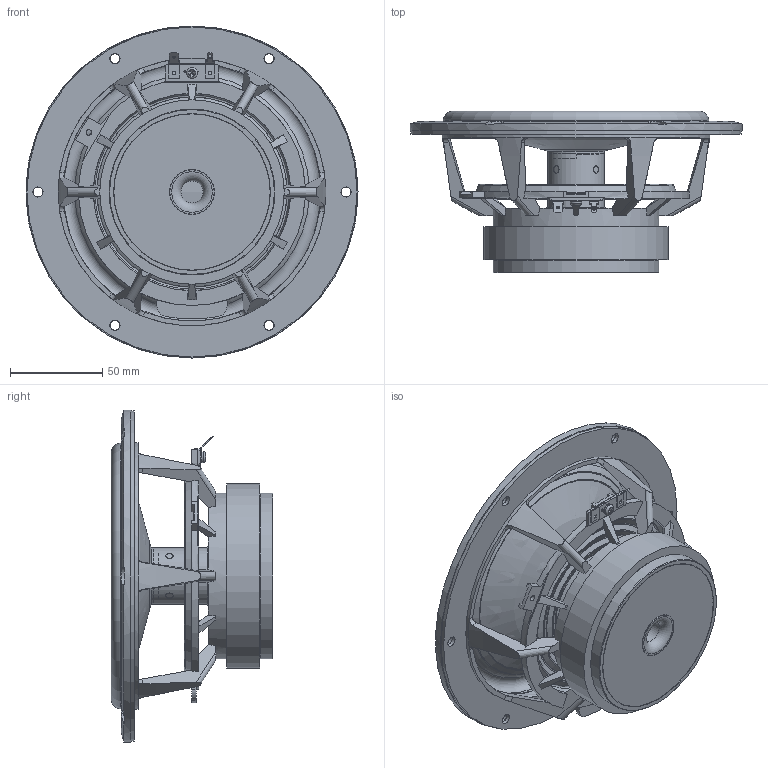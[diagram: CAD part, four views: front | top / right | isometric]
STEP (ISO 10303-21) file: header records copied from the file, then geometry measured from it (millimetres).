
FILE_DESCRIPTION(/* description */ (''),/* implementation_level */ '2;1');
FILE_NAME(/* name */ 'SIG180-4.step',/* time_stamp */ '2026-04-14T12:41:43-04:00',/* author */ (''),/* organization */ (''),/* preprocessor_version */ 'ST-DEVELOPER v20.1',/* originating_system */ 'Autodesk Translation Framework v14.24.0.0',/* authorisation */ '');
FILE_SCHEMA (('AUTOMOTIVE_DESIGN { 1 0 10303 214 3 1 1 }'));
Length unit declared in the file: millimetre
Products named in the file (3): 2026-04-14-12-33-16-504; FRAME_6_5INCH; ST-SG-18002
Assembly tree (2 placements, depth 2):
  2026-04-14-12-33-16-504
    FRAME_6_5INCH
    ST-SG-18002
Bounding box: 180 x 87.5 x 180 mm (x, y, z)
Volume: 343307.1 mm3; surface area: 171438.9 mm2
Topology: 2 solids, 2 shells, 538 faces, 1492 edges, 961 vertices
Faces by surface type: plane 260, cylinder 148, cone 71, torus 44, bspline 12, sphere 3
Full cylindrical faces by diameter (mm): 1.5 x1, 3 x1, 3.1 x2, 4 x8, 4.3 x6, 5.2 x6, 5.5 x6, 6 x1, 9.5 x6, 12 x1, 16 x1, 24 x1, 24.3 x1, 29.95 x1, 30.5 x1, 30.66 x2, 31.84 x1, 56 x1, 84.7 x1, 85 x1, 86 x1, 90 x2, 100 x1, 118 x1, 142.985 x1, 143.985 x1, 145 x2, 145.985 x1, 155 x1, 156 x1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
Entity records: 19533 total; most frequent: CARTESIAN_POINT 5365, ORIENTED_EDGE 3000, DIRECTION 2966, EDGE_CURVE 1500, AXIS2_PLACEMENT_3D 1146, VERTEX_POINT 969, LINE 674, VECTOR 674
